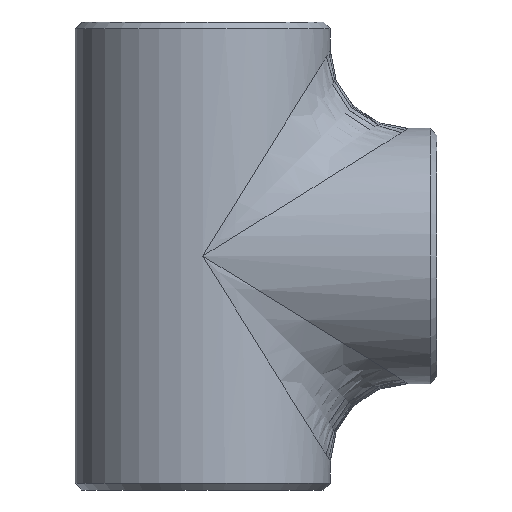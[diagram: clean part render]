
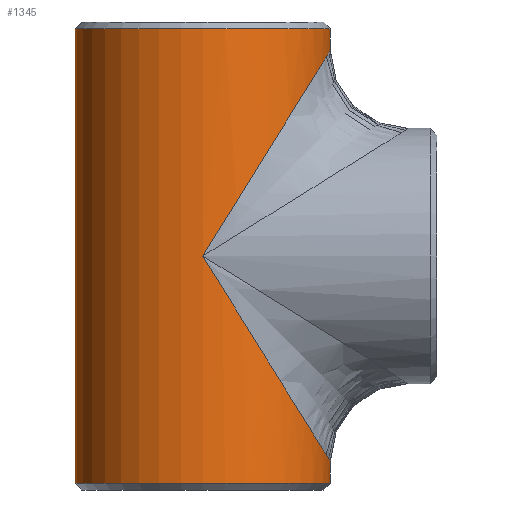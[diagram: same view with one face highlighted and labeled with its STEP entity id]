
A CAD part, front view. The second image highlights one B-rep face of the part: STEP entity #1345.
In plain terms, the highlighted cylindrical face has radius 57.15 mm (diameter 114.3 mm), a partial arc.
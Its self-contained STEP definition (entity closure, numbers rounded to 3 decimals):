
#37 = DIRECTION ( 'NONE',  ( 0., 0., 1. ) ) ;
#51 = CARTESIAN_POINT ( 'NONE',  ( 57.15, 0., -92.15 ) ) ;
#69 =( BOUNDED_CURVE ( )  B_SPLINE_CURVE ( 3, ( #393, #723, #1026, #607 ),
 .UNSPECIFIED., .F., .T. ) 
 B_SPLINE_CURVE_WITH_KNOTS ( ( 4, 4 ),
 ( 1.571, 3.142 ),
 .UNSPECIFIED. ) 
 CURVE ( )  GEOMETRIC_REPRESENTATION_ITEM ( )  RATIONAL_B_SPLINE_CURVE ( ( 1., 0.805, 0.805, 1. ) ) 
 REPRESENTATION_ITEM ( '' )  );
#79 = CARTESIAN_POINT ( 'NONE',  ( 0., -57.15, 0. ) ) ;
#109 = CYLINDRICAL_SURFACE ( 'NONE', #1226, 57.15 ) ;
#133 = ORIENTED_EDGE ( 'NONE', *, *, #563, .F. ) ;
#188 = DIRECTION ( 'NONE',  ( 1., 0., 0. ) ) ;
#201 = CARTESIAN_POINT ( 'NONE',  ( 57.15, 0., -101.76 ) ) ;
#219 = EDGE_LOOP ( 'NONE', ( #1270, #412, #784, #1363, #133, #992, #1184 ) ) ;
#221 = CARTESIAN_POINT ( 'NONE',  ( -57.15, 0., 104.8 ) ) ;
#226 = CIRCLE ( 'NONE', #1204, 57.15 ) ;
#239 = DIRECTION ( 'NONE',  ( 1., 0., 0. ) ) ;
#240 = VERTEX_POINT ( 'NONE', #51 ) ;
#286 = DIRECTION ( 'NONE',  ( 0., 0., -1. ) ) ;
#290 = CARTESIAN_POINT ( 'NONE',  ( -57.15, 0., -101.76 ) ) ;
#303 = CARTESIAN_POINT ( 'NONE',  ( 33.478, -57.15, -53.98 ) ) ;
#307 = VERTEX_POINT ( 'NONE', #702 ) ;
#327 = DIRECTION ( 'NONE',  ( 0., 0., -1. ) ) ;
#393 = CARTESIAN_POINT ( 'NONE',  ( 0., -57.15, 0. ) ) ;
#412 = ORIENTED_EDGE ( 'NONE', *, *, #1191, .T. ) ;
#434 = VERTEX_POINT ( 'NONE', #1095 ) ;
#454 = LINE ( 'NONE', #667, #714 ) ;
#485 = VECTOR ( 'NONE', #654, 1000. ) ;
#491 = EDGE_CURVE ( 'NONE', #307, #834, #646, .T. ) ;
#563 = EDGE_CURVE ( 'NONE', #240, #1105, #454, .T. ) ;
#607 = CARTESIAN_POINT ( 'NONE',  ( 57.15, 0., 92.15 ) ) ;
#612 = CIRCLE ( 'NONE', #1275, 57.15 ) ;
#623 = CARTESIAN_POINT ( 'NONE',  ( 57.15, 0., -92.15 ) ) ;
#646 = LINE ( 'NONE', #221, #485 ) ;
#651 = DIRECTION ( 'NONE',  ( 0., 0., -1. ) ) ;
#654 = DIRECTION ( 'NONE',  ( 0., 0., -1. ) ) ;
#667 = CARTESIAN_POINT ( 'NONE',  ( 57.15, 0., 104.8 ) ) ;
#702 = CARTESIAN_POINT ( 'NONE',  ( -57.15, 0., 101.76 ) ) ;
#714 = VECTOR ( 'NONE', #327, 1000. ) ;
#723 = CARTESIAN_POINT ( 'NONE',  ( 33.478, -57.15, 53.98 ) ) ;
#733 = EDGE_CURVE ( 'NONE', #834, #1105, #226, .T. ) ;
#735 = CARTESIAN_POINT ( 'NONE',  ( 0., 0., 104.8 ) ) ;
#784 = ORIENTED_EDGE ( 'NONE', *, *, #491, .T. ) ;
#813 = CARTESIAN_POINT ( 'NONE',  ( 0., 0., 101.76 ) ) ;
#833 = CARTESIAN_POINT ( 'NONE',  ( 57.15, 0., 92.15 ) ) ;
#834 = VERTEX_POINT ( 'NONE', #290 ) ;
#874 = CARTESIAN_POINT ( 'NONE',  ( 0., 0., -101.76 ) ) ;
#925 = CARTESIAN_POINT ( 'NONE',  ( 0., -57.15, 0. ) ) ;
#977 = VECTOR ( 'NONE', #286, 1000. ) ;
#992 = ORIENTED_EDGE ( 'NONE', *, *, #1086, .T. ) ;
#1025 =( BOUNDED_CURVE ( )  B_SPLINE_CURVE ( 3, ( #623, #1256, #303, #925 ),
 .UNSPECIFIED., .F., .F. ) 
 B_SPLINE_CURVE_WITH_KNOTS ( ( 4, 4 ),
 ( 3.142, 4.712 ),
 .UNSPECIFIED. ) 
 CURVE ( )  GEOMETRIC_REPRESENTATION_ITEM ( )  RATIONAL_B_SPLINE_CURVE ( ( 1., 0.805, 0.805, 1. ) ) 
 REPRESENTATION_ITEM ( '' )  );
#1026 = CARTESIAN_POINT ( 'NONE',  ( 57.15, -33.478, 92.15 ) ) ;
#1073 = DIRECTION ( 'NONE',  ( -1., 0., 0. ) ) ;
#1078 = FACE_OUTER_BOUND ( 'NONE', #219, .T. ) ;
#1086 = EDGE_CURVE ( 'NONE', #240, #1325, #1025, .T. ) ;
#1089 = VERTEX_POINT ( 'NONE', #833 ) ;
#1090 = EDGE_CURVE ( 'NONE', #1325, #1089, #69, .T. ) ;
#1095 = CARTESIAN_POINT ( 'NONE',  ( 57.15, 0., 101.76 ) ) ;
#1105 = VERTEX_POINT ( 'NONE', #201 ) ;
#1184 = ORIENTED_EDGE ( 'NONE', *, *, #1090, .T. ) ;
#1191 = EDGE_CURVE ( 'NONE', #434, #307, #612, .T. ) ;
#1204 = AXIS2_PLACEMENT_3D ( 'NONE', #874, #37, #239 ) ;
#1226 = AXIS2_PLACEMENT_3D ( 'NONE', #735, #651, #1073 ) ;
#1249 = CARTESIAN_POINT ( 'NONE',  ( 57.15, 0., 104.8 ) ) ;
#1256 = CARTESIAN_POINT ( 'NONE',  ( 57.15, -33.478, -92.15 ) ) ;
#1263 = DIRECTION ( 'NONE',  ( 0., 0., -1. ) ) ;
#1270 = ORIENTED_EDGE ( 'NONE', *, *, #1292, .F. ) ;
#1275 = AXIS2_PLACEMENT_3D ( 'NONE', #813, #1263, #188 ) ;
#1292 = EDGE_CURVE ( 'NONE', #434, #1089, #1362, .T. ) ;
#1325 = VERTEX_POINT ( 'NONE', #79 ) ;
#1345 = ADVANCED_FACE ( 'NONE', ( #1078 ), #109, .T. ) ;
#1362 = LINE ( 'NONE', #1249, #977 ) ;
#1363 = ORIENTED_EDGE ( 'NONE', *, *, #733, .T. ) ;
